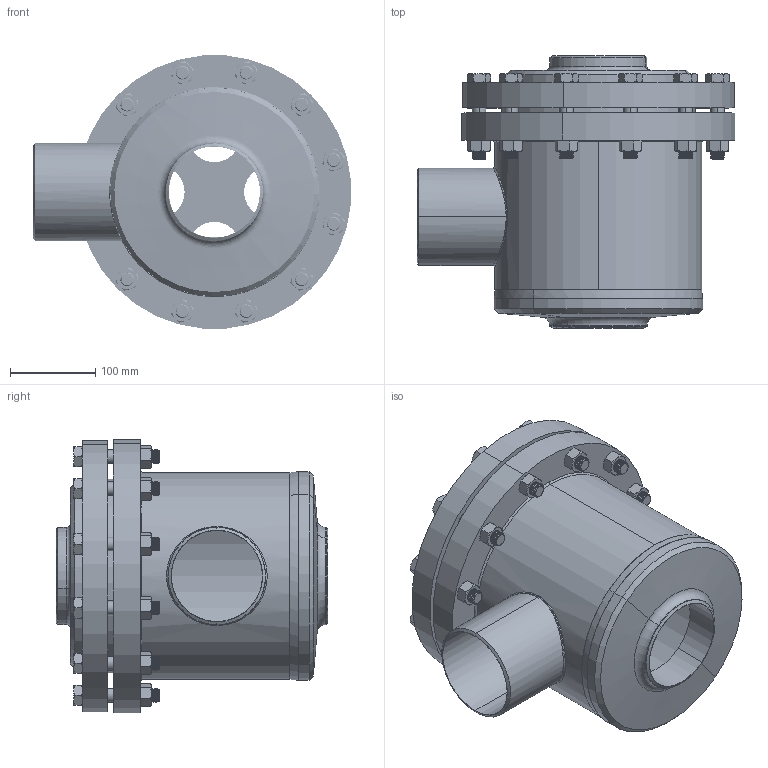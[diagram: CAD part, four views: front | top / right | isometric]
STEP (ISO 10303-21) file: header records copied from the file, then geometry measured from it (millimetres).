
FILE_DESCRIPTION (( 'STEP AP214' ), '1' );
FILE_NAME ('TR47000B19-DN100_R1_PS25.STEP', '2005-08-10T11:05:22', ( 'Herr Grams' ), ( 'AWP GmbH' ), 'SwSTEP 2.0', 'SolidWorks 2002296', '' );
FILE_SCHEMA (( 'AUTOMOTIVE_DESIGN' ));
Length unit declared in the file: millimetre
Products named in the file (16): TR47000B19-DN100_R1_PS25; Führungsring47050-19-DN100_Standard; Andruckplatte47050-19-DN100_Standard; Geh-kpl47000B19-DN100_PS25_R1_Standard; Kopfring47000E19_DN100_PS40_Standard; bead19-4_Standard; bead19-1_Standard; Kehlnaht19-2_Standard; Kehlnaht19-3_Standard; RohrstutzA47000E19-DN100_PS40_R1_Standard; Boden47000E_DN65-100_PS40_DN100; Geh47000E19_DN100_PS40_R1_Standard; loser Flansch47000E19_DN100_PS40_Standard; Deckel47000B19_DN100_PS25_R1_Standard; Sechskantschraube-DIN933-M16x90_M16x 90; Sechskantmutter-DIN934_M16
Assembly tree (37 placements, depth 3):
  TR47000B19-DN100_R1_PS25
    Andruckplatte47050-19-DN100_Standard
    Sechskantmutter-DIN934_M16  x12
    Deckel47000B19_DN100_PS25_R1_Standard
    Sechskantschraube-DIN933-M16x90_M16x 90  x12
    loser Flansch47000E19_DN100_PS40_Standard
    Geh-kpl47000B19-DN100_PS25_R1_Standard
      RohrstutzA47000E19-DN100_PS40_R1_Standard
      Geh47000E19_DN100_PS40_R1_Standard
      Kopfring47000E19_DN100_PS40_Standard
      bead19-1_Standard
      Kehlnaht19-3_Standard
      Boden47000E_DN65-100_PS40_DN100
      bead19-4_Standard
      Kehlnaht19-2_Standard
    Führungsring47050-19-DN100_Standard
Bounding box: 373.39 x 319.5 x 320.77 mm (x, y, z)
Volume: 6286176.9 mm3; surface area: 1287445.1 mm2
Topology: 36 solids, 36 shells, 1276 faces, 3208 edges, 2030 vertices
Faces by surface type: cylinder 602, cone 382, plane 252, bspline 32, torus 8
Entity records: 30716 total; most frequent: CARTESIAN_POINT 22638, DIRECTION 1578, ORIENTED_EDGE 1466, EDGE_CURVE 733, AXIS2_PLACEMENT_3D 677, VERTEX_POINT 468, EDGE_LOOP 411, CIRCLE 338
